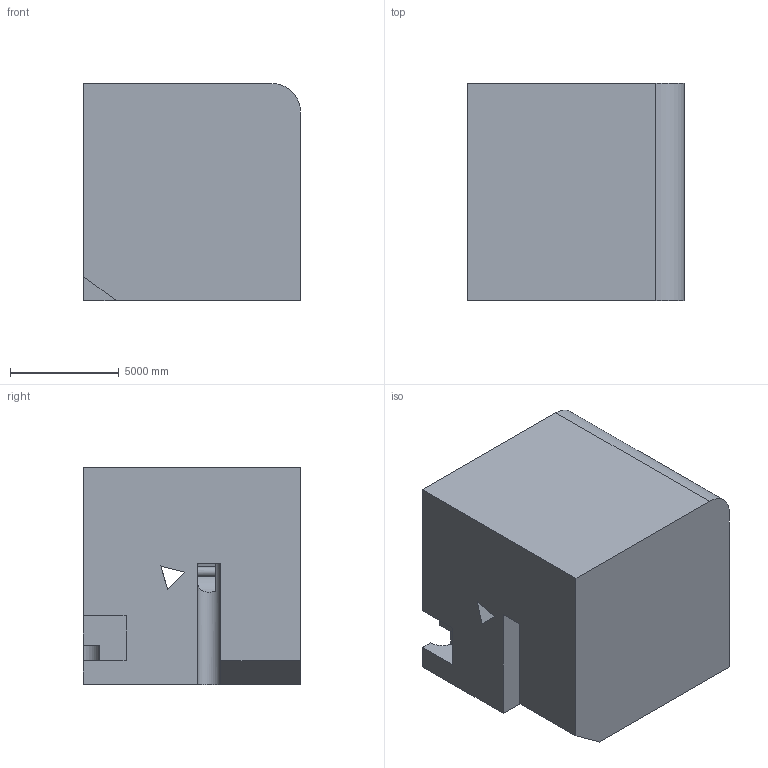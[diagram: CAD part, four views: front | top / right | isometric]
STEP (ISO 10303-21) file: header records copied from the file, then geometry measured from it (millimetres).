
FILE_DESCRIPTION (( 'STEP AP203' ), '1' );
FILE_NAME ('712.STEP', '2022-07-29T12:41:30', ( 'user' ), ( '' ), 'SwSTEP 2.0', 'SolidWorks 2021', '' );
FILE_SCHEMA (( 'CONFIG_CONTROL_DESIGN' ));
Length unit declared in the file: centimetre
Products named in the file (1): 712
Bounding box: 10000 x 10000 x 10000 mm (x, y, z)
Volume: 934336190705.3 mm3; surface area: 700774904 mm2
Topology: 1 solids, 1 shells, 39 faces, 111 edges, 74 vertices
Faces by surface type: plane 29, cylinder 10
Entity records: 1443 total; most frequent: CARTESIAN_POINT 348, ORIENTED_EDGE 222, DIRECTION 199, EDGE_CURVE 111, LINE 79, VECTOR 79, VERTEX_POINT 74, AXIS2_PLACEMENT_3D 60
